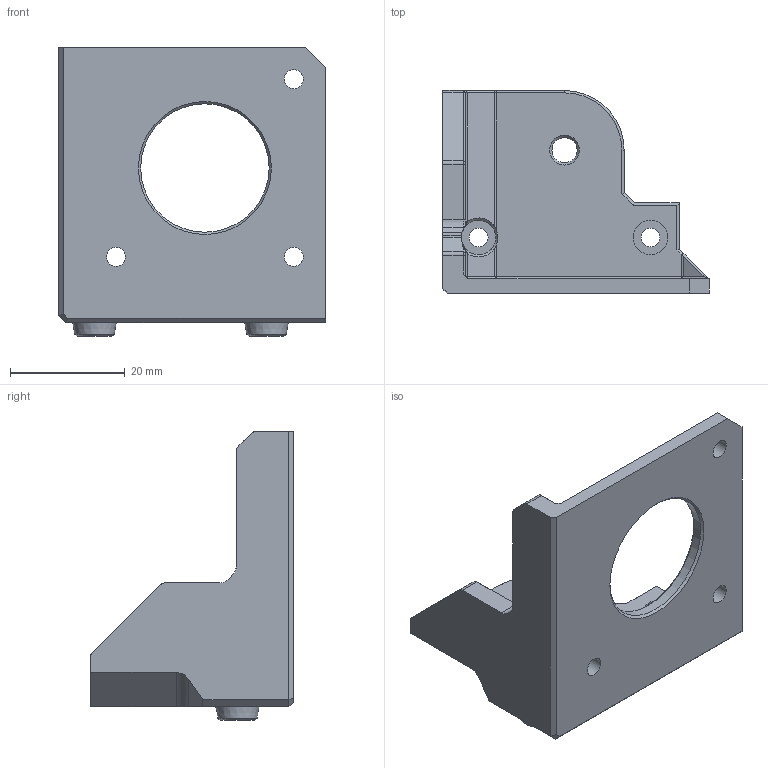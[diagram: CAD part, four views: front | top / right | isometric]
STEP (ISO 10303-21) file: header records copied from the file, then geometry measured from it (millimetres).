
FILE_DESCRIPTION(/* description */ (''),/* implementation_level */ '2;1');
FILE_NAME(/* name */ 'HMG7-Bondtech-BMG-Front-Mount.step',/* time_stamp */ '2022-11-01T21:48:08-07:00',/* author */ (''),/* organization */ (''),/* preprocessor_version */ 'ST-DEVELOPER v19.2',/* originating_system */ 'Autodesk Translation Framework v11.17.0.187',/* authorisation */ '');
FILE_SCHEMA (('AUTOMOTIVE_DESIGN { 1 0 10303 214 3 1 1 }'));
Length unit declared in the file: millimetre
Products named in the file (5): GEN_7_1.5; Bondtech_BMG; BMG_Mount; BMG_Front_Stepper; BMG_Stepper_Front_Mount_Plate
Assembly tree (4 placements, depth 4):
  GEN_7_1.5
    Bondtech_BMG
      BMG_Mount
      BMG_Front_Stepper
        BMG_Stepper_Front_Mount_Plate
Bounding box: 46.5 x 35.4 x 50.38 mm (x, y, z)
Volume: 13227.6 mm3; surface area: 8260.1 mm2
Topology: 1 solids, 1 shells, 108 faces, 268 edges, 165 vertices
Faces by surface type: plane 54, cylinder 22, cone 18, bspline 14
Full cylindrical faces by diameter (mm): 3.3 x5, 4.4 x1, 6 x2, 22.4 x1
Entity records: 3620 total; most frequent: CARTESIAN_POINT 999, ORIENTED_EDGE 536, DIRECTION 496, EDGE_CURVE 268, LINE 172, VECTOR 172, VERTEX_POINT 165, AXIS2_PLACEMENT_3D 162
